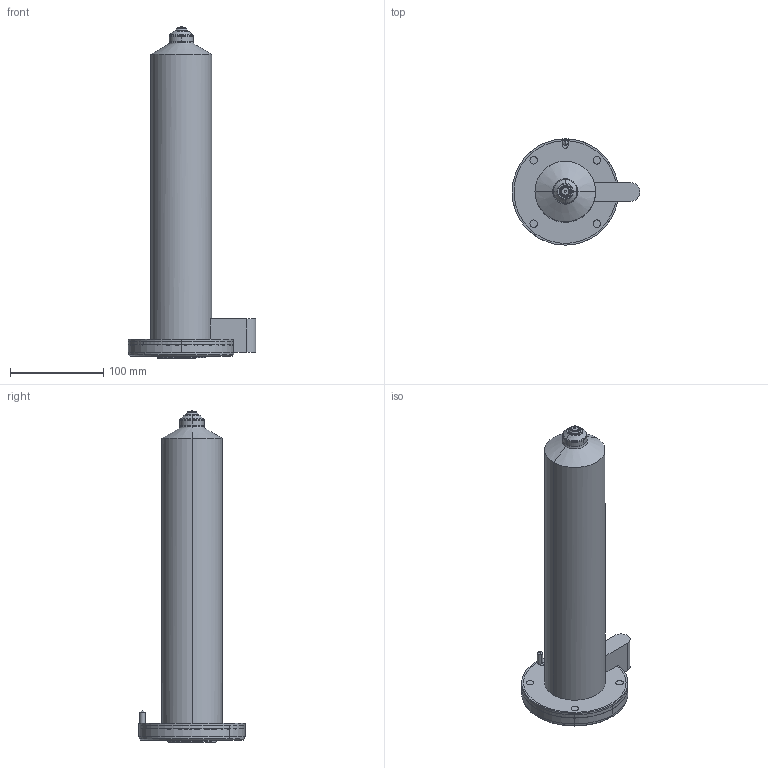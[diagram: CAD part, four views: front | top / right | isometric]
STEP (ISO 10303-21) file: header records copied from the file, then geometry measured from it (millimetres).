
FILE_DESCRIPTION (( 'STEP AP214' ), '1' );
FILE_NAME ('SR20_OPEN_350_HELICAL.STEP', '2009-05-07T16:20:52', ( 'Synventive Molding Solutions' ), ( 'Synventive Molding Solutions' ), 'SwSTEP 2.0', 'SolidWorks 2008', '' );
FILE_SCHEMA (( 'AUTOMOTIVE_DESIGN' ));
Length unit declared in the file: millimetre
Products named in the file (1): SR20_OPEN_350_HELICAL
Bounding box: 137 x 114 x 356 mm (x, y, z)
Volume: 1928962.2 mm3; surface area: 188583.4 mm2
Topology: 2 solids, 2 shells, 279 faces, 725 edges, 460 vertices
Faces by surface type: cylinder 117, plane 72, bspline 35, cone 33, torus 22
Entity records: 21789 total; most frequent: CARTESIAN_POINT 12174, ORIENTED_EDGE 1446, DIRECTION 1293, EDGE_CURVE 723, AXIS2_PLACEMENT_3D 507, VERTEX_POINT 460, EDGE_LOOP 309, UNCERTAINTY_MEASURE_WITH_UNIT 282
